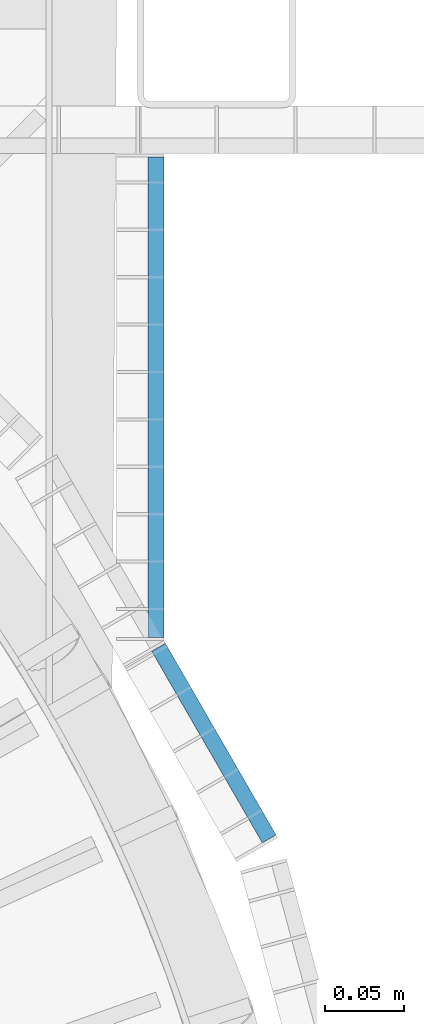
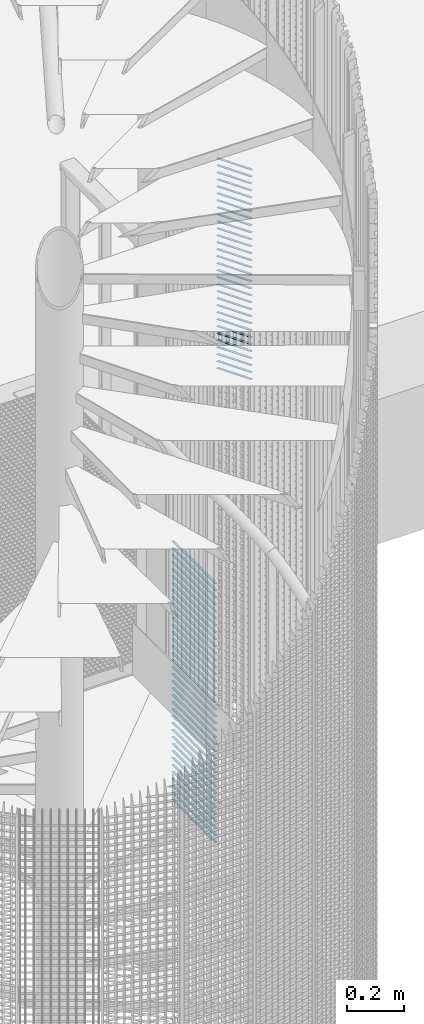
# One storey, part 280 of 1148: 69 beams, 2 elements without a shape of their own.
"""IFC2X3 building model written with IfcOpenShell, lengths in millimetres."""

from ifc_helpers import new_model, si_unit, frame, origin_with_axes, origin_2d_with_axis, place, context, subcontext, project, spatial, rectangle, extrude, material, type_object, element, aggregate, save


model = new_model("IFC2X3")

# Units and contexts
model_context = context("Model", 3, precision=1e-05, world=origin_with_axes())
body_context = subcontext(model_context, "Body", "Model", "MODEL_VIEW")
ifc_project = project(units=[si_unit("LENGTHUNIT", "METRE", prefix="MILLI"), si_unit("AREAUNIT", "SQUARE_METRE"), si_unit("VOLUMEUNIT", "CUBIC_METRE"), si_unit("MASSUNIT", "GRAM", prefix="KILO"), si_unit("TIMEUNIT", "SECOND"), si_unit("PLANEANGLEUNIT", "RADIAN"), si_unit("SOLIDANGLEUNIT", "STERADIAN"), si_unit("THERMODYNAMICTEMPERATUREUNIT", "DEGREE_CELSIUS"), si_unit("LUMINOUSINTENSITYUNIT", "LUMEN")], contexts=[model_context])

# Site, building, storey
site_placement = place(None, origin_with_axes())
site = spatial("IfcSite", under=ifc_project, at=site_placement, Name="Undefined", CompositionType="ELEMENT")
building_placement = place(site_placement, origin_with_axes())
building = spatial("IfcBuilding", under=site, at=building_placement, Name="Undefined", CompositionType="ELEMENT")
storey_placement = place(building_placement, origin_with_axes())
storey = spatial("IfcBuildingStorey", under=building, at=storey_placement, Name="Undefined", CompositionType="ELEMENT", Elevation=0.0)

# Assembly, beams
assembly_1_placement = place(storey_placement, origin_with_axes())
assembly_1 = element("IfcElementAssembly", 1, at=assembly_1_placement, inside=storey, Name="BORDURE", AssemblyPlace="NOTDEFINED", PredefinedType="NOTDEFINED")
ifc_material = material(Name="STEEL/S235JR")
beam_type = type_object("IfcBeamType", Name="PL2*10", PredefinedType="NOTDEFINED")
beam_1_placement = place(assembly_1_placement, frame((961.586915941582, 564.782669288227, 7140.0), z_axis=(1.0, 0.0, 0.0), x_axis=(0.0, 1.0, 0.0)))
beam_1 = element("IfcBeam", 2, at=beam_1_placement, type_object=beam_type, material=ifc_material, Name="ENTRETOISE", context=body_context, shape_type="SweptSolid", body=[
    extrude(rectangle(XDim=2.0, YDim=10.0, at=origin_2d_with_axis()), frame((303.999999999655, 0.0, 0.0), z_axis=(-1.0, 0.0, 0.0), x_axis=(0.0, -1.0, 0.0)), (0.0, 0.0, 1.0), 304.0),
])
beam_2_placement = place(assembly_1_placement, frame((961.586915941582, 564.782669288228, 6720.0), z_axis=(1.0, 0.0, 0.0), x_axis=(0.0, 1.0, 0.0)))
beam_2 = element("IfcBeam", 3, at=beam_2_placement, type_object=beam_type, material=ifc_material, Name="ENTRETOISE", context=body_context, shape_type="SweptSolid", body=[
    extrude(rectangle(XDim=2.0, YDim=10.0, at=origin_2d_with_axis()), frame((303.999999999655, 0.0, 0.0), z_axis=(-1.0, 0.0, 0.0), x_axis=(0.0, -1.0, 0.0)), (0.0, 0.0, 1.0), 304.0),
])
beam_3_placement = place(assembly_1_placement, frame((961.586915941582, 564.782669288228, 6690.0), z_axis=(1.0, 0.0, 0.0), x_axis=(0.0, 1.0, 0.0)))
beam_3 = element("IfcBeam", 4, at=beam_3_placement, type_object=beam_type, material=ifc_material, Name="ENTRETOISE", context=body_context, shape_type="SweptSolid", body=[
    extrude(rectangle(XDim=2.0, YDim=10.0, at=origin_2d_with_axis()), frame((303.999999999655, 0.0, 0.0), z_axis=(-1.0, 0.0, 0.0), x_axis=(0.0, -1.0, 0.0)), (0.0, 0.0, 1.0), 304.0),
])
beam_4_placement = place(assembly_1_placement, frame((961.586915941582, 564.782669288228, 6750.0), z_axis=(1.0, 0.0, 0.0), x_axis=(0.0, 1.0, 0.0)))
beam_4 = element("IfcBeam", 5, at=beam_4_placement, type_object=beam_type, material=ifc_material, Name="ENTRETOISE", context=body_context, shape_type="SweptSolid", body=[
    extrude(rectangle(XDim=2.0, YDim=10.0, at=origin_2d_with_axis()), frame((303.999999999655, 0.0, 0.0), z_axis=(-1.0, 0.0, 0.0), x_axis=(0.0, -1.0, 0.0)), (0.0, 0.0, 1.0), 304.0),
])
beam_5_placement = place(assembly_1_placement, frame((961.586915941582, 564.782669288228, 6660.0), z_axis=(1.0, 0.0, 0.0), x_axis=(0.0, 1.0, 0.0)))
beam_5 = element("IfcBeam", 6, at=beam_5_placement, type_object=beam_type, material=ifc_material, Name="ENTRETOISE", context=body_context, shape_type="SweptSolid", body=[
    extrude(rectangle(XDim=2.0, YDim=10.0, at=origin_2d_with_axis()), frame((303.999999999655, 0.0, 0.0), z_axis=(-1.0, 0.0, 0.0), x_axis=(0.0, -1.0, 0.0)), (0.0, 0.0, 1.0), 304.0),
])
beam_6_placement = place(assembly_1_placement, frame((961.586915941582, 564.782669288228, 6630.0), z_axis=(1.0, 0.0, 0.0), x_axis=(0.0, 1.0, 0.0)))
beam_6 = element("IfcBeam", 7, at=beam_6_placement, type_object=beam_type, material=ifc_material, Name="ENTRETOISE", context=body_context, shape_type="SweptSolid", body=[
    extrude(rectangle(XDim=2.0, YDim=10.0, at=origin_2d_with_axis()), frame((303.999999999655, 0.0, 0.0), z_axis=(-1.0, 0.0, 0.0), x_axis=(0.0, -1.0, 0.0)), (0.0, 0.0, 1.0), 304.0),
])
beam_7_placement = place(assembly_1_placement, frame((961.586915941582, 564.782669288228, 6780.0), z_axis=(1.0, 0.0, 0.0), x_axis=(0.0, 1.0, 0.0)))
beam_7 = element("IfcBeam", 8, at=beam_7_placement, type_object=beam_type, material=ifc_material, Name="ENTRETOISE", context=body_context, shape_type="SweptSolid", body=[
    extrude(rectangle(XDim=2.0, YDim=10.0, at=origin_2d_with_axis()), frame((303.999999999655, 0.0, 0.0), z_axis=(-1.0, 0.0, 0.0), x_axis=(0.0, -1.0, 0.0)), (0.0, 0.0, 1.0), 304.0),
])
beam_8_placement = place(assembly_1_placement, frame((961.586915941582, 564.782669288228, 6600.0), z_axis=(1.0, 0.0, 0.0), x_axis=(0.0, 1.0, 0.0)))
beam_8 = element("IfcBeam", 9, at=beam_8_placement, type_object=beam_type, material=ifc_material, Name="ENTRETOISE", context=body_context, shape_type="SweptSolid", body=[
    extrude(rectangle(XDim=2.0, YDim=10.0, at=origin_2d_with_axis()), frame((303.999999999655, 0.0, 0.0), z_axis=(-1.0, 0.0, 0.0), x_axis=(0.0, -1.0, 0.0)), (0.0, 0.0, 1.0), 304.0),
])
beam_9_placement = place(assembly_1_placement, frame((961.586915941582, 564.782669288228, 6810.0), z_axis=(1.0, 0.0, 0.0), x_axis=(0.0, 1.0, 0.0)))
beam_9 = element("IfcBeam", 10, at=beam_9_placement, type_object=beam_type, material=ifc_material, Name="ENTRETOISE", context=body_context, shape_type="SweptSolid", body=[
    extrude(rectangle(XDim=2.0, YDim=10.0, at=origin_2d_with_axis()), frame((303.999999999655, 0.0, 0.0), z_axis=(-1.0, 0.0, 0.0), x_axis=(0.0, -1.0, 0.0)), (0.0, 0.0, 1.0), 304.0),
])
beam_10_placement = place(assembly_1_placement, frame((961.586915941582, 564.782669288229, 6570.0), z_axis=(1.0, 0.0, 0.0), x_axis=(0.0, 1.0, 0.0)))
beam_10 = element("IfcBeam", 11, at=beam_10_placement, type_object=beam_type, material=ifc_material, Name="ENTRETOISE", context=body_context, shape_type="SweptSolid", body=[
    extrude(rectangle(XDim=2.0, YDim=10.0, at=origin_2d_with_axis()), frame((303.999999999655, 0.0, 0.0), z_axis=(-1.0, 0.0, 0.0), x_axis=(0.0, -1.0, 0.0)), (0.0, 0.0, 1.0), 304.0),
])
beam_11_placement = place(assembly_1_placement, frame((961.586915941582, 564.782669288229, 6540.0), z_axis=(1.0, 0.0, 0.0), x_axis=(0.0, 1.0, 0.0)))
beam_11 = element("IfcBeam", 12, at=beam_11_placement, type_object=beam_type, material=ifc_material, Name="ENTRETOISE", context=body_context, shape_type="SweptSolid", body=[
    extrude(rectangle(XDim=2.0, YDim=10.0, at=origin_2d_with_axis()), frame((303.999999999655, 0.0, 0.0), z_axis=(-1.0, 0.0, 0.0), x_axis=(0.0, -1.0, 0.0)), (0.0, 0.0, 1.0), 304.0),
])
beam_12_placement = place(assembly_1_placement, frame((961.586915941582, 564.782669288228, 6840.0), z_axis=(1.0, 0.0, 0.0), x_axis=(0.0, 1.0, 0.0)))
beam_12 = element("IfcBeam", 13, at=beam_12_placement, type_object=beam_type, material=ifc_material, Name="ENTRETOISE", context=body_context, shape_type="SweptSolid", body=[
    extrude(rectangle(XDim=2.0, YDim=10.0, at=origin_2d_with_axis()), frame((303.999999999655, 0.0, 0.0), z_axis=(-1.0, 0.0, 0.0), x_axis=(0.0, -1.0, 0.0)), (0.0, 0.0, 1.0), 304.0),
])
beam_13_placement = place(assembly_1_placement, frame((961.586915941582, 564.782669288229, 6510.0), z_axis=(1.0, 0.0, 0.0), x_axis=(0.0, 1.0, 0.0)))
beam_13 = element("IfcBeam", 14, at=beam_13_placement, type_object=beam_type, material=ifc_material, Name="ENTRETOISE", context=body_context, shape_type="SweptSolid", body=[
    extrude(rectangle(XDim=2.0, YDim=10.0, at=origin_2d_with_axis()), frame((303.999999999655, 0.0, 0.0), z_axis=(-1.0, 0.0, 0.0), x_axis=(0.0, -1.0, 0.0)), (0.0, 0.0, 1.0), 304.0),
])
beam_14_placement = place(assembly_1_placement, frame((961.586915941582, 564.782669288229, 6480.0), z_axis=(1.0, 0.0, 0.0), x_axis=(0.0, 1.0, 0.0)))
beam_14 = element("IfcBeam", 15, at=beam_14_placement, type_object=beam_type, material=ifc_material, Name="ENTRETOISE", context=body_context, shape_type="SweptSolid", body=[
    extrude(rectangle(XDim=2.0, YDim=10.0, at=origin_2d_with_axis()), frame((303.999999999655, 0.0, 0.0), z_axis=(-1.0, 0.0, 0.0), x_axis=(0.0, -1.0, 0.0)), (0.0, 0.0, 1.0), 304.0),
])
beam_15_placement = place(assembly_1_placement, frame((961.586915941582, 564.782669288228, 6870.0), z_axis=(1.0, 0.0, 0.0), x_axis=(0.0, 1.0, 0.0)))
beam_15 = element("IfcBeam", 16, at=beam_15_placement, type_object=beam_type, material=ifc_material, Name="ENTRETOISE", context=body_context, shape_type="SweptSolid", body=[
    extrude(rectangle(XDim=2.0, YDim=10.0, at=origin_2d_with_axis()), frame((303.999999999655, 0.0, 0.0), z_axis=(-1.0, 0.0, 0.0), x_axis=(0.0, -1.0, 0.0)), (0.0, 0.0, 1.0), 304.0),
])
beam_16_placement = place(assembly_1_placement, frame((961.586915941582, 564.782669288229, 6450.0), z_axis=(1.0, 0.0, 0.0), x_axis=(0.0, 1.0, 0.0)))
beam_16 = element("IfcBeam", 17, at=beam_16_placement, type_object=beam_type, material=ifc_material, Name="ENTRETOISE", context=body_context, shape_type="SweptSolid", body=[
    extrude(rectangle(XDim=2.0, YDim=10.0, at=origin_2d_with_axis()), frame((303.999999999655, 0.0, 0.0), z_axis=(-1.0, 0.0, 0.0), x_axis=(0.0, -1.0, 0.0)), (0.0, 0.0, 1.0), 304.0),
])
beam_17_placement = place(assembly_1_placement, frame((961.586915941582, 564.782669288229, 6420.0), z_axis=(1.0, 0.0, 0.0), x_axis=(0.0, 1.0, 0.0)))
beam_17 = element("IfcBeam", 18, at=beam_17_placement, type_object=beam_type, material=ifc_material, Name="ENTRETOISE", context=body_context, shape_type="SweptSolid", body=[
    extrude(rectangle(XDim=2.0, YDim=10.0, at=origin_2d_with_axis()), frame((303.999999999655, 0.0, 0.0), z_axis=(-1.0, 0.0, 0.0), x_axis=(0.0, -1.0, 0.0)), (0.0, 0.0, 1.0), 304.0),
])
beam_18_placement = place(assembly_1_placement, frame((961.586915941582, 564.782669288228, 6900.0), z_axis=(1.0, 0.0, 0.0), x_axis=(0.0, 1.0, 0.0)))
beam_18 = element("IfcBeam", 19, at=beam_18_placement, type_object=beam_type, material=ifc_material, Name="ENTRETOISE", context=body_context, shape_type="SweptSolid", body=[
    extrude(rectangle(XDim=2.0, YDim=10.0, at=origin_2d_with_axis()), frame((303.999999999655, 0.0, 0.0), z_axis=(-1.0, 0.0, 0.0), x_axis=(0.0, -1.0, 0.0)), (0.0, 0.0, 1.0), 304.0),
])
beam_19_placement = place(assembly_1_placement, frame((961.586915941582, 564.782669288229, 6390.0), z_axis=(1.0, 0.0, 0.0), x_axis=(0.0, 1.0, 0.0)))
beam_19 = element("IfcBeam", 20, at=beam_19_placement, type_object=beam_type, material=ifc_material, Name="ENTRETOISE", context=body_context, shape_type="SweptSolid", body=[
    extrude(rectangle(XDim=2.0, YDim=10.0, at=origin_2d_with_axis()), frame((303.999999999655, 0.0, 0.0), z_axis=(-1.0, 0.0, 0.0), x_axis=(0.0, -1.0, 0.0)), (0.0, 0.0, 1.0), 304.0),
])
beam_20_placement = place(assembly_1_placement, frame((961.586915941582, 564.782669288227, 6930.0), z_axis=(1.0, 0.0, 0.0), x_axis=(0.0, 1.0, 0.0)))
beam_20 = element("IfcBeam", 21, at=beam_20_placement, type_object=beam_type, material=ifc_material, Name="ENTRETOISE", context=body_context, shape_type="SweptSolid", body=[
    extrude(rectangle(XDim=2.0, YDim=10.0, at=origin_2d_with_axis()), frame((303.999999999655, 0.0, 0.0), z_axis=(-1.0, 0.0, 0.0), x_axis=(0.0, -1.0, 0.0)), (0.0, 0.0, 1.0), 304.0),
])
beam_21_placement = place(assembly_1_placement, frame((961.586915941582, 564.782669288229, 6360.0), z_axis=(1.0, 0.0, 0.0), x_axis=(0.0, 1.0, 0.0)))
beam_21 = element("IfcBeam", 22, at=beam_21_placement, type_object=beam_type, material=ifc_material, Name="ENTRETOISE", context=body_context, shape_type="SweptSolid", body=[
    extrude(rectangle(XDim=2.0, YDim=10.0, at=origin_2d_with_axis()), frame((303.999999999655, 0.0, 0.0), z_axis=(-1.0, 0.0, 0.0), x_axis=(0.0, -1.0, 0.0)), (0.0, 0.0, 1.0), 304.0),
])
beam_22_placement = place(assembly_1_placement, frame((961.586915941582, 564.782669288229, 6330.0), z_axis=(1.0, 0.0, 0.0), x_axis=(0.0, 1.0, 0.0)))
beam_22 = element("IfcBeam", 23, at=beam_22_placement, type_object=beam_type, material=ifc_material, Name="ENTRETOISE", context=body_context, shape_type="SweptSolid", body=[
    extrude(rectangle(XDim=2.0, YDim=10.0, at=origin_2d_with_axis()), frame((303.999999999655, 0.0, 0.0), z_axis=(-1.0, 0.0, 0.0), x_axis=(0.0, -1.0, 0.0)), (0.0, 0.0, 1.0), 304.0),
])
beam_23_placement = place(assembly_1_placement, frame((961.586915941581, 564.782669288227, 6960.0), z_axis=(1.0, 0.0, 0.0), x_axis=(0.0, 1.0, 0.0)))
beam_23 = element("IfcBeam", 24, at=beam_23_placement, type_object=beam_type, material=ifc_material, Name="ENTRETOISE", context=body_context, shape_type="SweptSolid", body=[
    extrude(rectangle(XDim=2.0, YDim=10.0, at=origin_2d_with_axis()), frame((303.999999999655, 0.0, 0.0), z_axis=(-1.0, 0.0, 0.0), x_axis=(0.0, -1.0, 0.0)), (0.0, 0.0, 1.0), 304.0),
])
beam_24_placement = place(assembly_1_placement, frame((961.586915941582, 564.782669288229, 6300.0), z_axis=(1.0, 0.0, 0.0), x_axis=(0.0, 1.0, 0.0)))
beam_24 = element("IfcBeam", 25, at=beam_24_placement, type_object=beam_type, material=ifc_material, Name="ENTRETOISE", context=body_context, shape_type="SweptSolid", body=[
    extrude(rectangle(XDim=2.0, YDim=10.0, at=origin_2d_with_axis()), frame((303.999999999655, 0.0, 0.0), z_axis=(-1.0, 0.0, 0.0), x_axis=(0.0, -1.0, 0.0)), (0.0, 0.0, 1.0), 304.0),
])
beam_25_placement = place(assembly_1_placement, frame((961.586915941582, 564.78266928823, 6270.0), z_axis=(1.0, 0.0, 0.0), x_axis=(0.0, 1.0, 0.0)))
beam_25 = element("IfcBeam", 26, at=beam_25_placement, type_object=beam_type, material=ifc_material, Name="ENTRETOISE", context=body_context, shape_type="SweptSolid", body=[
    extrude(rectangle(XDim=2.0, YDim=10.0, at=origin_2d_with_axis()), frame((303.999999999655, 0.0, 0.0), z_axis=(-1.0, 0.0, 0.0), x_axis=(0.0, -1.0, 0.0)), (0.0, 0.0, 1.0), 304.0),
])
beam_26_placement = place(assembly_1_placement, frame((961.586915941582, 564.782669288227, 6990.0), z_axis=(1.0, 0.0, 0.0), x_axis=(0.0, 1.0, 0.0)))
beam_26 = element("IfcBeam", 27, at=beam_26_placement, type_object=beam_type, material=ifc_material, Name="ENTRETOISE", context=body_context, shape_type="SweptSolid", body=[
    extrude(rectangle(XDim=2.0, YDim=10.0, at=origin_2d_with_axis()), frame((303.999999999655, 0.0, 0.0), z_axis=(-1.0, 0.0, 0.0), x_axis=(0.0, -1.0, 0.0)), (0.0, 0.0, 1.0), 304.0),
])
beam_27_placement = place(assembly_1_placement, frame((961.586915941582, 564.78266928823, 6240.0), z_axis=(1.0, 0.0, 0.0), x_axis=(0.0, 1.0, 0.0)))
beam_27 = element("IfcBeam", 28, at=beam_27_placement, type_object=beam_type, material=ifc_material, Name="ENTRETOISE", context=body_context, shape_type="SweptSolid", body=[
    extrude(rectangle(XDim=2.0, YDim=10.0, at=origin_2d_with_axis()), frame((303.999999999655, 0.0, 0.0), z_axis=(-1.0, 0.0, 0.0), x_axis=(0.0, -1.0, 0.0)), (0.0, 0.0, 1.0), 304.0),
])
beam_28_placement = place(assembly_1_placement, frame((961.586915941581, 564.782669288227, 7020.0), z_axis=(1.0, 0.0, 0.0), x_axis=(0.0, 1.0, 0.0)))
beam_28 = element("IfcBeam", 29, at=beam_28_placement, type_object=beam_type, material=ifc_material, Name="ENTRETOISE", context=body_context, shape_type="SweptSolid", body=[
    extrude(rectangle(XDim=2.0, YDim=10.0, at=origin_2d_with_axis()), frame((303.999999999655, 0.0, 0.0), z_axis=(-1.0, 0.0, 0.0), x_axis=(0.0, -1.0, 0.0)), (0.0, 0.0, 1.0), 304.0),
])
beam_29_placement = place(assembly_1_placement, frame((961.586915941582, 564.78266928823, 6210.0), z_axis=(1.0, 0.0, 0.0), x_axis=(0.0, 1.0, 0.0)))
beam_29 = element("IfcBeam", 30, at=beam_29_placement, type_object=beam_type, material=ifc_material, Name="ENTRETOISE", context=body_context, shape_type="SweptSolid", body=[
    extrude(rectangle(XDim=2.0, YDim=10.0, at=origin_2d_with_axis()), frame((303.999999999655, 0.0, 0.0), z_axis=(-1.0, 0.0, 0.0), x_axis=(0.0, -1.0, 0.0)), (0.0, 0.0, 1.0), 304.0),
])
beam_30_placement = place(assembly_1_placement, frame((961.586915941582, 564.78266928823, 6180.0), z_axis=(1.0, 0.0, 0.0), x_axis=(0.0, 1.0, 0.0)))
beam_30 = element("IfcBeam", 31, at=beam_30_placement, type_object=beam_type, material=ifc_material, Name="ENTRETOISE", context=body_context, shape_type="SweptSolid", body=[
    extrude(rectangle(XDim=2.0, YDim=10.0, at=origin_2d_with_axis()), frame((303.999999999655, 0.0, 0.0), z_axis=(-1.0, 0.0, 0.0), x_axis=(0.0, -1.0, 0.0)), (0.0, 0.0, 1.0), 304.0),
])
beam_31_placement = place(assembly_1_placement, frame((961.586915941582, 564.782669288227, 7050.0), z_axis=(1.0, 0.0, 0.0), x_axis=(0.0, 1.0, 0.0)))
beam_31 = element("IfcBeam", 32, at=beam_31_placement, type_object=beam_type, material=ifc_material, Name="ENTRETOISE", context=body_context, shape_type="SweptSolid", body=[
    extrude(rectangle(XDim=2.0, YDim=10.0, at=origin_2d_with_axis()), frame((303.999999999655, 0.0, 0.0), z_axis=(-1.0, 0.0, 0.0), x_axis=(0.0, -1.0, 0.0)), (0.0, 0.0, 1.0), 304.0),
])
beam_32_placement = place(assembly_1_placement, frame((961.586915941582, 564.78266928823, 6150.0), z_axis=(1.0, 0.0, 0.0), x_axis=(0.0, 1.0, 0.0)))
beam_32 = element("IfcBeam", 33, at=beam_32_placement, type_object=beam_type, material=ifc_material, Name="ENTRETOISE", context=body_context, shape_type="SweptSolid", body=[
    extrude(rectangle(XDim=2.0, YDim=10.0, at=origin_2d_with_axis()), frame((303.999999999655, 0.0, 0.0), z_axis=(-1.0, 0.0, 0.0), x_axis=(0.0, -1.0, 0.0)), (0.0, 0.0, 1.0), 304.0),
])
beam_33_placement = place(assembly_1_placement, frame((961.586915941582, 564.78266928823, 6120.0), z_axis=(1.0, 0.0, 0.0), x_axis=(0.0, 1.0, 0.0)))
beam_33 = element("IfcBeam", 34, at=beam_33_placement, type_object=beam_type, material=ifc_material, Name="ENTRETOISE", context=body_context, shape_type="SweptSolid", body=[
    extrude(rectangle(XDim=2.0, YDim=10.0, at=origin_2d_with_axis()), frame((303.999999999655, 0.0, 0.0), z_axis=(-1.0, 0.0, 0.0), x_axis=(0.0, -1.0, 0.0)), (0.0, 0.0, 1.0), 304.0),
])
beam_34_placement = place(assembly_1_placement, frame((961.586915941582, 564.782669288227, 7080.0), z_axis=(1.0, 0.0, 0.0), x_axis=(0.0, 1.0, 0.0)))
beam_34 = element("IfcBeam", 35, at=beam_34_placement, type_object=beam_type, material=ifc_material, Name="ENTRETOISE", context=body_context, shape_type="SweptSolid", body=[
    extrude(rectangle(XDim=2.0, YDim=10.0, at=origin_2d_with_axis()), frame((303.999999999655, 0.0, 0.0), z_axis=(-1.0, 0.0, 0.0), x_axis=(0.0, -1.0, 0.0)), (0.0, 0.0, 1.0), 304.0),
])
beam_35_placement = place(assembly_1_placement, frame((961.586915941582, 564.78266928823, 6090.0), z_axis=(1.0, 0.0, 0.0), x_axis=(0.0, 1.0, 0.0)))
beam_35 = element("IfcBeam", 36, at=beam_35_placement, type_object=beam_type, material=ifc_material, Name="ENTRETOISE", context=body_context, shape_type="SweptSolid", body=[
    extrude(rectangle(XDim=2.0, YDim=10.0, at=origin_2d_with_axis()), frame((303.999999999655, 0.0, 0.0), z_axis=(-1.0, 0.0, 0.0), x_axis=(0.0, -1.0, 0.0)), (0.0, 0.0, 1.0), 304.0),
])
beam_36_placement = place(assembly_1_placement, frame((961.586915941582, 564.78266928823, 6060.0), z_axis=(1.0, 0.0, 0.0), x_axis=(0.0, 1.0, 0.0)))
beam_36 = element("IfcBeam", 37, at=beam_36_placement, type_object=beam_type, material=ifc_material, Name="ENTRETOISE", context=body_context, shape_type="SweptSolid", body=[
    extrude(rectangle(XDim=2.0, YDim=10.0, at=origin_2d_with_axis()), frame((303.999999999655, 0.0, 0.0), z_axis=(-1.0, 0.0, 0.0), x_axis=(0.0, -1.0, 0.0)), (0.0, 0.0, 1.0), 304.0),
])
beam_37_placement = place(assembly_1_placement, frame((961.586915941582, 564.782669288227, 7110.0), z_axis=(1.0, 0.0, 0.0), x_axis=(0.0, 1.0, 0.0)))
beam_37 = element("IfcBeam", 38, at=beam_37_placement, type_object=beam_type, material=ifc_material, Name="ENTRETOISE", context=body_context, shape_type="SweptSolid", body=[
    extrude(rectangle(XDim=2.0, YDim=10.0, at=origin_2d_with_axis()), frame((303.999999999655, 0.0, 0.0), z_axis=(-1.0, 0.0, 0.0), x_axis=(0.0, -1.0, 0.0)), (0.0, 0.0, 1.0), 304.0),
])
beam_38_placement = place(assembly_1_placement, frame((961.586915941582, 564.782669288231, 6030.0), z_axis=(1.0, 0.0, 0.0), x_axis=(0.0, 1.0, 0.0)))
beam_38 = element("IfcBeam", 39, at=beam_38_placement, type_object=beam_type, material=ifc_material, Name="ENTRETOISE", context=body_context, shape_type="SweptSolid", body=[
    extrude(rectangle(XDim=2.0, YDim=10.0, at=origin_2d_with_axis()), frame((303.999999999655, 0.0, 0.0), z_axis=(-1.0, 0.0, 0.0), x_axis=(0.0, -1.0, 0.0)), (0.0, 0.0, 1.0), 304.0),
])
aggregate(assembly_1, [beam_1, beam_2, beam_3, beam_4, beam_5, beam_6, beam_7, beam_8, beam_9, beam_10, beam_11, beam_12, beam_13, beam_14, beam_15, beam_16, beam_17, beam_18, beam_19, beam_20, beam_21, beam_22, beam_23, beam_24, beam_25, beam_26, beam_27, beam_28, beam_29, beam_30, beam_31, beam_32, beam_33, beam_34, beam_35, beam_36, beam_37, beam_38])

assembly_2_placement = place(storey_placement, origin_with_axes())
assembly_2 = element("IfcElementAssembly", 40, at=assembly_2_placement, inside=storey, Name="BORDURE", AssemblyPlace="NOTDEFINED", PredefinedType="NOTDEFINED")
beam_39_placement = place(assembly_2_placement, frame((1033.29994283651, 437.231999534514, 8970.0), z_axis=(0.866030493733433, 0.499991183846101, 0.0), x_axis=(-0.499991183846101, 0.866030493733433, 0.0)))
beam_39 = element("IfcBeam", 41, at=beam_39_placement, type_object=beam_type, material=ifc_material, Name="ENTRETOISE", context=body_context, shape_type="SweptSolid", body=[
    extrude(rectangle(XDim=2.0, YDim=10.0, at=origin_2d_with_axis()), frame((140.102470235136, 0.0, 0.0), z_axis=(-1.0, 0.0, 0.0), x_axis=(0.0, -1.0, 0.0)), (0.0, 0.0, 1.0), 140.1),
])
beam_40_placement = place(assembly_2_placement, frame((1033.29994283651, 437.231999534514, 8940.0), z_axis=(0.866030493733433, 0.499991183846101, 0.0), x_axis=(-0.499991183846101, 0.866030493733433, 0.0)))
beam_40 = element("IfcBeam", 42, at=beam_40_placement, type_object=beam_type, material=ifc_material, Name="ENTRETOISE", context=body_context, shape_type="SweptSolid", body=[
    extrude(rectangle(XDim=2.0, YDim=10.0, at=origin_2d_with_axis()), frame((140.102470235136, 0.0, 0.0), z_axis=(-1.0, 0.0, 0.0), x_axis=(0.0, -1.0, 0.0)), (0.0, 0.0, 1.0), 140.1),
])
beam_41_placement = place(assembly_2_placement, frame((1033.29994283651, 437.231999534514, 8910.0), z_axis=(0.866030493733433, 0.499991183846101, 0.0), x_axis=(-0.499991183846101, 0.866030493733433, 0.0)))
beam_41 = element("IfcBeam", 43, at=beam_41_placement, type_object=beam_type, material=ifc_material, Name="ENTRETOISE", context=body_context, shape_type="SweptSolid", body=[
    extrude(rectangle(XDim=2.0, YDim=10.0, at=origin_2d_with_axis()), frame((140.102470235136, 0.0, 0.0), z_axis=(-1.0, 0.0, 0.0), x_axis=(0.0, -1.0, 0.0)), (0.0, 0.0, 1.0), 140.1),
])
beam_42_placement = place(assembly_2_placement, frame((1033.29994283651, 437.231999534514, 8880.0), z_axis=(0.866030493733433, 0.499991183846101, 0.0), x_axis=(-0.499991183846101, 0.866030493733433, 0.0)))
beam_42 = element("IfcBeam", 44, at=beam_42_placement, type_object=beam_type, material=ifc_material, Name="ENTRETOISE", context=body_context, shape_type="SweptSolid", body=[
    extrude(rectangle(XDim=2.0, YDim=10.0, at=origin_2d_with_axis()), frame((140.102470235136, 0.0, 0.0), z_axis=(-1.0, 0.0, 0.0), x_axis=(0.0, -1.0, 0.0)), (0.0, 0.0, 1.0), 140.1),
])
beam_43_placement = place(assembly_2_placement, frame((1033.29994283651, 437.231999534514, 8850.0), z_axis=(0.866030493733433, 0.499991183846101, 0.0), x_axis=(-0.499991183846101, 0.866030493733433, 0.0)))
beam_43 = element("IfcBeam", 45, at=beam_43_placement, type_object=beam_type, material=ifc_material, Name="ENTRETOISE", context=body_context, shape_type="SweptSolid", body=[
    extrude(rectangle(XDim=2.0, YDim=10.0, at=origin_2d_with_axis()), frame((140.102470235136, 0.0, 0.0), z_axis=(-1.0, 0.0, 0.0), x_axis=(0.0, -1.0, 0.0)), (0.0, 0.0, 1.0), 140.1),
])
beam_44_placement = place(assembly_2_placement, frame((1033.29994283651, 437.231999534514, 8820.0), z_axis=(0.866030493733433, 0.499991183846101, 0.0), x_axis=(-0.499991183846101, 0.866030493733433, 0.0)))
beam_44 = element("IfcBeam", 46, at=beam_44_placement, type_object=beam_type, material=ifc_material, Name="ENTRETOISE", context=body_context, shape_type="SweptSolid", body=[
    extrude(rectangle(XDim=2.0, YDim=10.0, at=origin_2d_with_axis()), frame((140.102470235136, 0.0, 0.0), z_axis=(-1.0, 0.0, 0.0), x_axis=(0.0, -1.0, 0.0)), (0.0, 0.0, 1.0), 140.1),
])
beam_45_placement = place(assembly_2_placement, frame((1033.29994283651, 437.231999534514, 8790.0), z_axis=(0.866030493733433, 0.499991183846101, 0.0), x_axis=(-0.499991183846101, 0.866030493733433, 0.0)))
beam_45 = element("IfcBeam", 47, at=beam_45_placement, type_object=beam_type, material=ifc_material, Name="ENTRETOISE", context=body_context, shape_type="SweptSolid", body=[
    extrude(rectangle(XDim=2.0, YDim=10.0, at=origin_2d_with_axis()), frame((140.102470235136, 0.0, 0.0), z_axis=(-1.0, 0.0, 0.0), x_axis=(0.0, -1.0, 0.0)), (0.0, 0.0, 1.0), 140.1),
])
beam_46_placement = place(assembly_2_placement, frame((1033.29994283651, 437.231999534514, 8760.0), z_axis=(0.866030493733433, 0.499991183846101, 0.0), x_axis=(-0.499991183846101, 0.866030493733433, 0.0)))
beam_46 = element("IfcBeam", 48, at=beam_46_placement, type_object=beam_type, material=ifc_material, Name="ENTRETOISE", context=body_context, shape_type="SweptSolid", body=[
    extrude(rectangle(XDim=2.0, YDim=10.0, at=origin_2d_with_axis()), frame((140.102470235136, 0.0, 0.0), z_axis=(-1.0, 0.0, 0.0), x_axis=(0.0, -1.0, 0.0)), (0.0, 0.0, 1.0), 140.1),
])
beam_47_placement = place(assembly_2_placement, frame((1033.29994283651, 437.231999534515, 8730.0), z_axis=(0.866030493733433, 0.499991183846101, 0.0), x_axis=(-0.499991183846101, 0.866030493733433, 0.0)))
beam_47 = element("IfcBeam", 49, at=beam_47_placement, type_object=beam_type, material=ifc_material, Name="ENTRETOISE", context=body_context, shape_type="SweptSolid", body=[
    extrude(rectangle(XDim=2.0, YDim=10.0, at=origin_2d_with_axis()), frame((140.102470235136, 0.0, 0.0), z_axis=(-1.0, 0.0, 0.0), x_axis=(0.0, -1.0, 0.0)), (0.0, 0.0, 1.0), 140.1),
])
beam_48_placement = place(assembly_2_placement, frame((1033.29994283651, 437.231999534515, 8700.0), z_axis=(0.866030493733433, 0.499991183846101, 0.0), x_axis=(-0.499991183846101, 0.866030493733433, 0.0)))
beam_48 = element("IfcBeam", 50, at=beam_48_placement, type_object=beam_type, material=ifc_material, Name="ENTRETOISE", context=body_context, shape_type="SweptSolid", body=[
    extrude(rectangle(XDim=2.0, YDim=10.0, at=origin_2d_with_axis()), frame((140.102470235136, 0.0, 0.0), z_axis=(-1.0, 0.0, 0.0), x_axis=(0.0, -1.0, 0.0)), (0.0, 0.0, 1.0), 140.1),
])
beam_49_placement = place(assembly_2_placement, frame((1033.29994283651, 437.231999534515, 8670.0), z_axis=(0.866030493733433, 0.499991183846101, 0.0), x_axis=(-0.499991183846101, 0.866030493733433, 0.0)))
beam_49 = element("IfcBeam", 51, at=beam_49_placement, type_object=beam_type, material=ifc_material, Name="ENTRETOISE", context=body_context, shape_type="SweptSolid", body=[
    extrude(rectangle(XDim=2.0, YDim=10.0, at=origin_2d_with_axis()), frame((140.102470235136, 0.0, 0.0), z_axis=(-1.0, 0.0, 0.0), x_axis=(0.0, -1.0, 0.0)), (0.0, 0.0, 1.0), 140.1),
])
beam_50_placement = place(assembly_2_placement, frame((1033.29994283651, 437.231999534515, 8640.0), z_axis=(0.866030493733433, 0.499991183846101, 0.0), x_axis=(-0.499991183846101, 0.866030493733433, 0.0)))
beam_50 = element("IfcBeam", 52, at=beam_50_placement, type_object=beam_type, material=ifc_material, Name="ENTRETOISE", context=body_context, shape_type="SweptSolid", body=[
    extrude(rectangle(XDim=2.0, YDim=10.0, at=origin_2d_with_axis()), frame((140.102470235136, 0.0, 0.0), z_axis=(-1.0, 0.0, 0.0), x_axis=(0.0, -1.0, 0.0)), (0.0, 0.0, 1.0), 140.1),
])
beam_51_placement = place(assembly_2_placement, frame((1033.29994283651, 437.231999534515, 8610.0), z_axis=(0.866030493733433, 0.499991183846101, 0.0), x_axis=(-0.499991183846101, 0.866030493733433, 0.0)))
beam_51 = element("IfcBeam", 53, at=beam_51_placement, type_object=beam_type, material=ifc_material, Name="ENTRETOISE", context=body_context, shape_type="SweptSolid", body=[
    extrude(rectangle(XDim=2.0, YDim=10.0, at=origin_2d_with_axis()), frame((140.102470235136, 0.0, 0.0), z_axis=(-1.0, 0.0, 0.0), x_axis=(0.0, -1.0, 0.0)), (0.0, 0.0, 1.0), 140.1),
])
beam_52_placement = place(assembly_2_placement, frame((1033.29994283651, 437.231999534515, 8580.0), z_axis=(0.866030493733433, 0.499991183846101, 0.0), x_axis=(-0.499991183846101, 0.866030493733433, 0.0)))
beam_52 = element("IfcBeam", 54, at=beam_52_placement, type_object=beam_type, material=ifc_material, Name="ENTRETOISE", context=body_context, shape_type="SweptSolid", body=[
    extrude(rectangle(XDim=2.0, YDim=10.0, at=origin_2d_with_axis()), frame((140.102470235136, 0.0, 0.0), z_axis=(-1.0, 0.0, 0.0), x_axis=(0.0, -1.0, 0.0)), (0.0, 0.0, 1.0), 140.1),
])
beam_53_placement = place(assembly_2_placement, frame((1033.29994283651, 437.231999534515, 8550.0), z_axis=(0.866030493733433, 0.499991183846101, 0.0), x_axis=(-0.499991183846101, 0.866030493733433, 0.0)))
beam_53 = element("IfcBeam", 55, at=beam_53_placement, type_object=beam_type, material=ifc_material, Name="ENTRETOISE", context=body_context, shape_type="SweptSolid", body=[
    extrude(rectangle(XDim=2.0, YDim=10.0, at=origin_2d_with_axis()), frame((140.102470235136, 0.0, 0.0), z_axis=(-1.0, 0.0, 0.0), x_axis=(0.0, -1.0, 0.0)), (0.0, 0.0, 1.0), 140.1),
])
beam_54_placement = place(assembly_2_placement, frame((1033.29994283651, 437.231999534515, 8520.0), z_axis=(0.866030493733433, 0.499991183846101, 0.0), x_axis=(-0.499991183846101, 0.866030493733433, 0.0)))
beam_54 = element("IfcBeam", 56, at=beam_54_placement, type_object=beam_type, material=ifc_material, Name="ENTRETOISE", context=body_context, shape_type="SweptSolid", body=[
    extrude(rectangle(XDim=2.0, YDim=10.0, at=origin_2d_with_axis()), frame((140.102470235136, 0.0, 0.0), z_axis=(-1.0, 0.0, 0.0), x_axis=(0.0, -1.0, 0.0)), (0.0, 0.0, 1.0), 140.1),
])
beam_55_placement = place(assembly_2_placement, frame((1033.29994283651, 437.231999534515, 8490.0), z_axis=(0.866030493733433, 0.499991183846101, 0.0), x_axis=(-0.499991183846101, 0.866030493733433, 0.0)))
beam_55 = element("IfcBeam", 57, at=beam_55_placement, type_object=beam_type, material=ifc_material, Name="ENTRETOISE", context=body_context, shape_type="SweptSolid", body=[
    extrude(rectangle(XDim=2.0, YDim=10.0, at=origin_2d_with_axis()), frame((140.102470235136, 0.0, 0.0), z_axis=(-1.0, 0.0, 0.0), x_axis=(0.0, -1.0, 0.0)), (0.0, 0.0, 1.0), 140.1),
])
beam_56_placement = place(assembly_2_placement, frame((1033.29994283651, 437.231999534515, 8460.0), z_axis=(0.866030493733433, 0.499991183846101, 0.0), x_axis=(-0.499991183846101, 0.866030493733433, 0.0)))
beam_56 = element("IfcBeam", 58, at=beam_56_placement, type_object=beam_type, material=ifc_material, Name="ENTRETOISE", context=body_context, shape_type="SweptSolid", body=[
    extrude(rectangle(XDim=2.0, YDim=10.0, at=origin_2d_with_axis()), frame((140.102470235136, 0.0, 0.0), z_axis=(-1.0, 0.0, 0.0), x_axis=(0.0, -1.0, 0.0)), (0.0, 0.0, 1.0), 140.1),
])
beam_57_placement = place(assembly_2_placement, frame((1033.29994283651, 437.231999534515, 8430.0), z_axis=(0.866030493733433, 0.499991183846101, 0.0), x_axis=(-0.499991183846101, 0.866030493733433, 0.0)))
beam_57 = element("IfcBeam", 59, at=beam_57_placement, type_object=beam_type, material=ifc_material, Name="ENTRETOISE", context=body_context, shape_type="SweptSolid", body=[
    extrude(rectangle(XDim=2.0, YDim=10.0, at=origin_2d_with_axis()), frame((140.102470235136, 0.0, 0.0), z_axis=(-1.0, 0.0, 0.0), x_axis=(0.0, -1.0, 0.0)), (0.0, 0.0, 1.0), 140.1),
])
beam_58_placement = place(assembly_2_placement, frame((1033.29994283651, 437.231999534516, 8400.0), z_axis=(0.866030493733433, 0.499991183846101, 0.0), x_axis=(-0.499991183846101, 0.866030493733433, 0.0)))
beam_58 = element("IfcBeam", 60, at=beam_58_placement, type_object=beam_type, material=ifc_material, Name="ENTRETOISE", context=body_context, shape_type="SweptSolid", body=[
    extrude(rectangle(XDim=2.0, YDim=10.0, at=origin_2d_with_axis()), frame((140.102470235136, 0.0, 0.0), z_axis=(-1.0, 0.0, 0.0), x_axis=(0.0, -1.0, 0.0)), (0.0, 0.0, 1.0), 140.1),
])
beam_59_placement = place(assembly_2_placement, frame((1033.29994283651, 437.231999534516, 8370.0), z_axis=(0.866030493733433, 0.499991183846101, 0.0), x_axis=(-0.499991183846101, 0.866030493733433, 0.0)))
beam_59 = element("IfcBeam", 61, at=beam_59_placement, type_object=beam_type, material=ifc_material, Name="ENTRETOISE", context=body_context, shape_type="SweptSolid", body=[
    extrude(rectangle(XDim=2.0, YDim=10.0, at=origin_2d_with_axis()), frame((140.102470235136, 0.0, 0.0), z_axis=(-1.0, 0.0, 0.0), x_axis=(0.0, -1.0, 0.0)), (0.0, 0.0, 1.0), 140.1),
])
beam_60_placement = place(assembly_2_placement, frame((1033.29994283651, 437.231999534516, 8340.0), z_axis=(0.866030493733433, 0.499991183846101, 0.0), x_axis=(-0.499991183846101, 0.866030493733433, 0.0)))
beam_60 = element("IfcBeam", 62, at=beam_60_placement, type_object=beam_type, material=ifc_material, Name="ENTRETOISE", context=body_context, shape_type="SweptSolid", body=[
    extrude(rectangle(XDim=2.0, YDim=10.0, at=origin_2d_with_axis()), frame((140.102470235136, 0.0, 0.0), z_axis=(-1.0, 0.0, 0.0), x_axis=(0.0, -1.0, 0.0)), (0.0, 0.0, 1.0), 140.1),
])
beam_61_placement = place(assembly_2_placement, frame((1033.29994283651, 437.231999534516, 8310.0), z_axis=(0.866030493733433, 0.499991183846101, 0.0), x_axis=(-0.499991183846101, 0.866030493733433, 0.0)))
beam_61 = element("IfcBeam", 63, at=beam_61_placement, type_object=beam_type, material=ifc_material, Name="ENTRETOISE", context=body_context, shape_type="SweptSolid", body=[
    extrude(rectangle(XDim=2.0, YDim=10.0, at=origin_2d_with_axis()), frame((140.102470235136, 0.0, 0.0), z_axis=(-1.0, 0.0, 0.0), x_axis=(0.0, -1.0, 0.0)), (0.0, 0.0, 1.0), 140.1),
])
beam_62_placement = place(assembly_2_placement, frame((1033.29994283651, 437.231999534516, 8280.0), z_axis=(0.866030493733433, 0.499991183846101, 0.0), x_axis=(-0.499991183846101, 0.866030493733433, 0.0)))
beam_62 = element("IfcBeam", 64, at=beam_62_placement, type_object=beam_type, material=ifc_material, Name="ENTRETOISE", context=body_context, shape_type="SweptSolid", body=[
    extrude(rectangle(XDim=2.0, YDim=10.0, at=origin_2d_with_axis()), frame((140.102470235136, 0.0, 0.0), z_axis=(-1.0, 0.0, 0.0), x_axis=(0.0, -1.0, 0.0)), (0.0, 0.0, 1.0), 140.1),
])
beam_63_placement = place(assembly_2_placement, frame((1033.29994283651, 437.231999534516, 8250.0), z_axis=(0.866030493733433, 0.499991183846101, 0.0), x_axis=(-0.499991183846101, 0.866030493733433, 0.0)))
beam_63 = element("IfcBeam", 65, at=beam_63_placement, type_object=beam_type, material=ifc_material, Name="ENTRETOISE", context=body_context, shape_type="SweptSolid", body=[
    extrude(rectangle(XDim=2.0, YDim=10.0, at=origin_2d_with_axis()), frame((140.102470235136, 0.0, 0.0), z_axis=(-1.0, 0.0, 0.0), x_axis=(0.0, -1.0, 0.0)), (0.0, 0.0, 1.0), 140.1),
])
beam_64_placement = place(assembly_2_placement, frame((1033.29994283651, 437.231999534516, 8220.0), z_axis=(0.866030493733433, 0.499991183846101, 0.0), x_axis=(-0.499991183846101, 0.866030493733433, 0.0)))
beam_64 = element("IfcBeam", 66, at=beam_64_placement, type_object=beam_type, material=ifc_material, Name="ENTRETOISE", context=body_context, shape_type="SweptSolid", body=[
    extrude(rectangle(XDim=2.0, YDim=10.0, at=origin_2d_with_axis()), frame((140.102470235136, 0.0, 0.0), z_axis=(-1.0, 0.0, 0.0), x_axis=(0.0, -1.0, 0.0)), (0.0, 0.0, 1.0), 140.1),
])
beam_65_placement = place(assembly_2_placement, frame((1033.29994283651, 437.231999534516, 8190.0), z_axis=(0.866030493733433, 0.499991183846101, 0.0), x_axis=(-0.499991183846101, 0.866030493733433, 0.0)))
beam_65 = element("IfcBeam", 67, at=beam_65_placement, type_object=beam_type, material=ifc_material, Name="ENTRETOISE", context=body_context, shape_type="SweptSolid", body=[
    extrude(rectangle(XDim=2.0, YDim=10.0, at=origin_2d_with_axis()), frame((140.102470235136, 0.0, 0.0), z_axis=(-1.0, 0.0, 0.0), x_axis=(0.0, -1.0, 0.0)), (0.0, 0.0, 1.0), 140.1),
])
beam_66_placement = place(assembly_2_placement, frame((1033.29994283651, 437.231999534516, 8160.0), z_axis=(0.866030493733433, 0.499991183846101, 0.0), x_axis=(-0.499991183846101, 0.866030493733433, 0.0)))
beam_66 = element("IfcBeam", 68, at=beam_66_placement, type_object=beam_type, material=ifc_material, Name="ENTRETOISE", context=body_context, shape_type="SweptSolid", body=[
    extrude(rectangle(XDim=2.0, YDim=10.0, at=origin_2d_with_axis()), frame((140.102470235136, 0.0, 0.0), z_axis=(-1.0, 0.0, 0.0), x_axis=(0.0, -1.0, 0.0)), (0.0, 0.0, 1.0), 140.1),
])
beam_67_placement = place(assembly_2_placement, frame((1033.29994283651, 437.231999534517, 8130.0), z_axis=(0.866030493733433, 0.499991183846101, 0.0), x_axis=(-0.499991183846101, 0.866030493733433, 0.0)))
beam_67 = element("IfcBeam", 69, at=beam_67_placement, type_object=beam_type, material=ifc_material, Name="ENTRETOISE", context=body_context, shape_type="SweptSolid", body=[
    extrude(rectangle(XDim=2.0, YDim=10.0, at=origin_2d_with_axis()), frame((140.102470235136, 0.0, 0.0), z_axis=(-1.0, 0.0, 0.0), x_axis=(0.0, -1.0, 0.0)), (0.0, 0.0, 1.0), 140.1),
])
beam_68_placement = place(assembly_2_placement, frame((1033.29994283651, 437.231999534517, 8100.0), z_axis=(0.866030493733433, 0.499991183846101, 0.0), x_axis=(-0.499991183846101, 0.866030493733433, 0.0)))
beam_68 = element("IfcBeam", 70, at=beam_68_placement, type_object=beam_type, material=ifc_material, Name="ENTRETOISE", context=body_context, shape_type="SweptSolid", body=[
    extrude(rectangle(XDim=2.0, YDim=10.0, at=origin_2d_with_axis()), frame((140.102470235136, 0.0, 0.0), z_axis=(-1.0, 0.0, 0.0), x_axis=(0.0, -1.0, 0.0)), (0.0, 0.0, 1.0), 140.1),
])
beam_69_placement = place(assembly_2_placement, frame((1033.29994283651, 437.231999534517, 8070.0), z_axis=(0.866030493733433, 0.499991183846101, 0.0), x_axis=(-0.499991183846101, 0.866030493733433, 0.0)))
beam_69 = element("IfcBeam", 71, at=beam_69_placement, type_object=beam_type, material=ifc_material, Name="ENTRETOISE", context=body_context, shape_type="SweptSolid", body=[
    extrude(rectangle(XDim=2.0, YDim=10.0, at=origin_2d_with_axis()), frame((140.102470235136, 0.0, 0.0), z_axis=(-1.0, 0.0, 0.0), x_axis=(0.0, -1.0, 0.0)), (0.0, 0.0, 1.0), 140.1),
])
aggregate(assembly_2, [beam_39, beam_40, beam_41, beam_42, beam_43, beam_44, beam_45, beam_46, beam_47, beam_48, beam_49, beam_50, beam_51, beam_52, beam_53, beam_54, beam_55, beam_56, beam_57, beam_58, beam_59, beam_60, beam_61, beam_62, beam_63, beam_64, beam_65, beam_66, beam_67, beam_68, beam_69])

save(model, "model.ifc")
